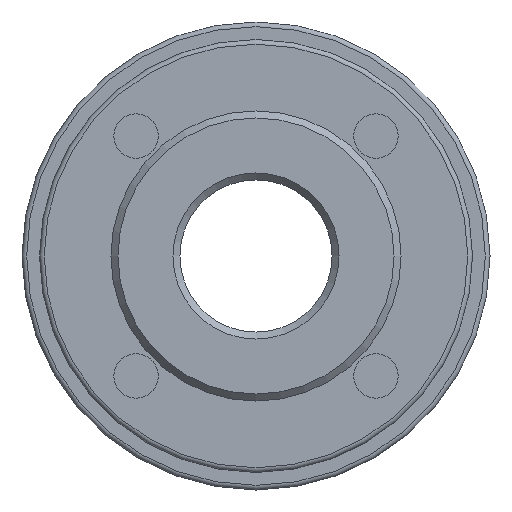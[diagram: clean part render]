
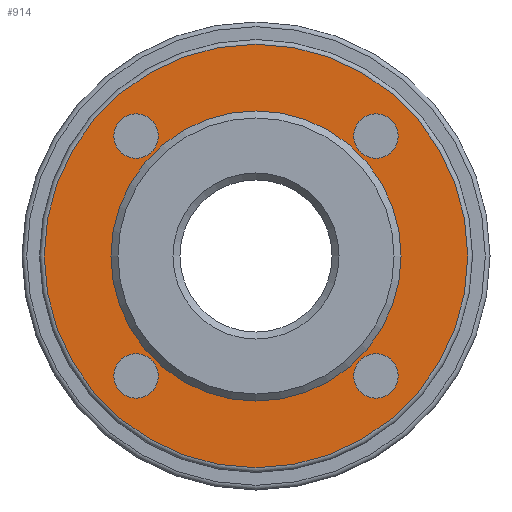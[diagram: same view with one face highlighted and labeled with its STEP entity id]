
A CAD part, left-side view. The second image highlights one B-rep face of the part: STEP entity #914.
In plain terms, the highlighted planar face has unit normal (-1, 0, 0).
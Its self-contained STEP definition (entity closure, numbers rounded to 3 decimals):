
#2 = DIRECTION ( 'NONE',  ( 1., 0., 0. ) ) ;
#42 = EDGE_CURVE ( 'NONE', #2374, #2374, #1435, .T. ) ;
#98 = EDGE_LOOP ( 'NONE', ( #1699 ) ) ;
#125 = DIRECTION ( 'NONE',  ( 0., 0., 1. ) ) ;
#147 = CIRCLE ( 'NONE', #540, 9.5 ) ;
#148 = VERTEX_POINT ( 'NONE', #748 ) ;
#168 = VERTEX_POINT ( 'NONE', #1666 ) ;
#181 = FACE_BOUND ( 'NONE', #666, .T. ) ;
#209 = FACE_BOUND ( 'NONE', #1377, .T. ) ;
#346 = AXIS2_PLACEMENT_3D ( 'NONE', #771, #2, #749 ) ;
#347 = DIRECTION ( 'NONE',  ( -1., 0., 0. ) ) ;
#351 = ORIENTED_EDGE ( 'NONE', *, *, #959, .F. ) ;
#366 = VERTEX_POINT ( 'NONE', #2408 ) ;
#395 = FACE_OUTER_BOUND ( 'NONE', #2052, .T. ) ;
#402 = DIRECTION ( 'NONE',  ( -1., 0., 0. ) ) ;
#433 = CARTESIAN_POINT ( 'NONE',  ( 3., -51.265, 51.265 ) ) ;
#442 = EDGE_CURVE ( 'NONE', #663, #663, #147, .T. ) ;
#482 = CARTESIAN_POINT ( 'NONE',  ( 3., 60.765, -51.265 ) ) ;
#495 = DIRECTION ( 'NONE',  ( 0., 1., 0. ) ) ;
#540 = AXIS2_PLACEMENT_3D ( 'NONE', #901, #347, #495 ) ;
#663 = VERTEX_POINT ( 'NONE', #482 ) ;
#666 = EDGE_LOOP ( 'NONE', ( #1795 ) ) ;
#748 = CARTESIAN_POINT ( 'NONE',  ( 3., -60.765, 51.265 ) ) ;
#749 = DIRECTION ( 'NONE',  ( 0., 0., -1. ) ) ;
#771 = CARTESIAN_POINT ( 'NONE',  ( 3., 62., 0. ) ) ;
#835 = CARTESIAN_POINT ( 'NONE',  ( 3., 0., -90.5 ) ) ;
#888 = EDGE_LOOP ( 'NONE', ( #1119 ) ) ;
#901 = CARTESIAN_POINT ( 'NONE',  ( 3., 51.265, -51.265 ) ) ;
#914 = ADVANCED_FACE ( 'NONE', ( #395, #1862, #1706, #181, #1886, #209 ), #2021, .F. ) ;
#959 = EDGE_CURVE ( 'NONE', #148, #148, #2275, .T. ) ;
#964 = DIRECTION ( 'NONE',  ( 0., 0., -1. ) ) ;
#987 = DIRECTION ( 'NONE',  ( -1., 0., 0. ) ) ;
#1079 = VERTEX_POINT ( 'NONE', #2062 ) ;
#1119 = ORIENTED_EDGE ( 'NONE', *, *, #1740, .F. ) ;
#1190 = DIRECTION ( 'NONE',  ( -1., 0., 0. ) ) ;
#1202 = DIRECTION ( 'NONE',  ( 0., -1., 0. ) ) ;
#1218 = CARTESIAN_POINT ( 'NONE',  ( 3., 51.265, 51.265 ) ) ;
#1227 = DIRECTION ( 'NONE',  ( 0., 0., 1. ) ) ;
#1246 = AXIS2_PLACEMENT_3D ( 'NONE', #1515, #402, #964 ) ;
#1254 = CIRCLE ( 'NONE', #1327, 62. ) ;
#1327 = AXIS2_PLACEMENT_3D ( 'NONE', #1813, #1764, #125 ) ;
#1377 = EDGE_LOOP ( 'NONE', ( #2235 ) ) ;
#1435 = CIRCLE ( 'NONE', #2344, 90.5 ) ;
#1515 = CARTESIAN_POINT ( 'NONE',  ( 3., -51.265, -51.265 ) ) ;
#1517 = AXIS2_PLACEMENT_3D ( 'NONE', #1218, #2164, #1227 ) ;
#1632 = CIRCLE ( 'NONE', #1246, 9.5 ) ;
#1640 = EDGE_CURVE ( 'NONE', #168, #168, #1254, .T. ) ;
#1654 = EDGE_LOOP ( 'NONE', ( #351 ) ) ;
#1666 = CARTESIAN_POINT ( 'NONE',  ( 3., 0., 62. ) ) ;
#1699 = ORIENTED_EDGE ( 'NONE', *, *, #2074, .F. ) ;
#1706 = FACE_BOUND ( 'NONE', #98, .T. ) ;
#1740 = EDGE_CURVE ( 'NONE', #1079, #1079, #1983, .T. ) ;
#1764 = DIRECTION ( 'NONE',  ( -1., 0., 0. ) ) ;
#1781 = ORIENTED_EDGE ( 'NONE', *, *, #42, .T. ) ;
#1795 = ORIENTED_EDGE ( 'NONE', *, *, #442, .F. ) ;
#1813 = CARTESIAN_POINT ( 'NONE',  ( 3., 0., 0. ) ) ;
#1862 = FACE_BOUND ( 'NONE', #1654, .T. ) ;
#1886 = FACE_BOUND ( 'NONE', #888, .T. ) ;
#1957 = DIRECTION ( 'NONE',  ( 0., 0., -1. ) ) ;
#1983 = CIRCLE ( 'NONE', #1517, 9.5 ) ;
#2021 = PLANE ( 'NONE',  #346 ) ;
#2052 = EDGE_LOOP ( 'NONE', ( #1781 ) ) ;
#2062 = CARTESIAN_POINT ( 'NONE',  ( 3., 51.265, 60.765 ) ) ;
#2074 = EDGE_CURVE ( 'NONE', #366, #366, #1632, .T. ) ;
#2164 = DIRECTION ( 'NONE',  ( -1., 0., 0. ) ) ;
#2235 = ORIENTED_EDGE ( 'NONE', *, *, #1640, .F. ) ;
#2275 = CIRCLE ( 'NONE', #2310, 9.5 ) ;
#2306 = CARTESIAN_POINT ( 'NONE',  ( 3., 0., 0. ) ) ;
#2310 = AXIS2_PLACEMENT_3D ( 'NONE', #433, #1190, #1202 ) ;
#2344 = AXIS2_PLACEMENT_3D ( 'NONE', #2306, #987, #1957 ) ;
#2374 = VERTEX_POINT ( 'NONE', #835 ) ;
#2408 = CARTESIAN_POINT ( 'NONE',  ( 3., -51.265, -60.765 ) ) ;
